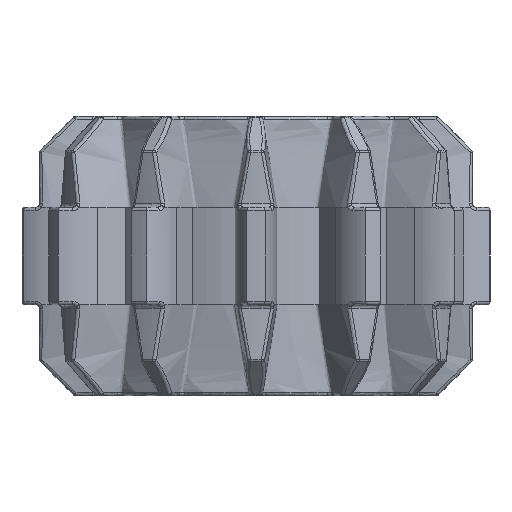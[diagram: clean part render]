
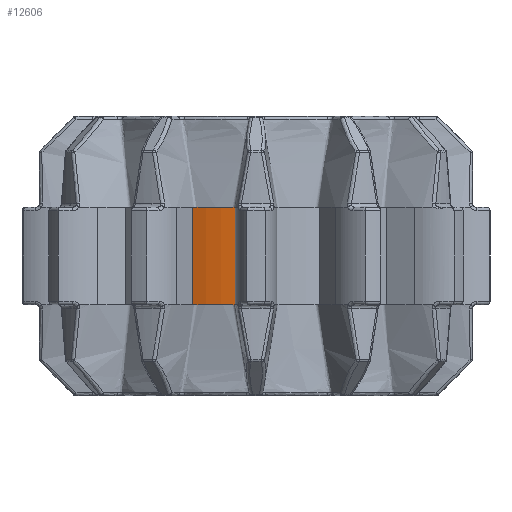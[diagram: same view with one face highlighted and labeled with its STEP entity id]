
A CAD part, left-side view. The second image highlights one B-rep face of the part: STEP entity #12606.
In plain terms, the highlighted cylindrical face has radius 4.7 mm (diameter 9.4 mm), a partial arc.
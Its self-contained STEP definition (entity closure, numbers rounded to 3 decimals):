
#1548=LINE('',#23630,#1773);
#1551=LINE('',#23638,#1776);
#1773=VECTOR('',#16042,1000.);
#1776=VECTOR('',#16051,1000.);
#1982=CYLINDRICAL_SURFACE('',#13841,4.7);
#2203=FACE_OUTER_BOUND('',#3015,.T.);
#3015=EDGE_LOOP('',(#8936,#8937,#8938,#8939));
#4071=CIRCLE('',#13842,4.7);
#4072=CIRCLE('',#13843,4.7);
#5292=VERTEX_POINT('',#23628);
#5293=VERTEX_POINT('',#23629);
#5294=VERTEX_POINT('',#23634);
#5295=VERTEX_POINT('',#23636);
#6735=EDGE_CURVE('',#5292,#5293,#1548,.T.);
#6738=EDGE_CURVE('',#5292,#5294,#4071,.T.);
#6739=EDGE_CURVE('',#5295,#5293,#4072,.T.);
#6740=EDGE_CURVE('',#5294,#5295,#1551,.T.);
#8936=ORIENTED_EDGE('',*,*,#6738,.F.);
#8937=ORIENTED_EDGE('',*,*,#6735,.T.);
#8938=ORIENTED_EDGE('',*,*,#6739,.F.);
#8939=ORIENTED_EDGE('',*,*,#6740,.F.);
#12606=ADVANCED_FACE('',(#2203),#1982,.T.);
#13841=AXIS2_PLACEMENT_3D('',#23633,#16045,#16046);
#13842=AXIS2_PLACEMENT_3D('',#23635,#16047,#16048);
#13843=AXIS2_PLACEMENT_3D('',#23637,#16049,#16050);
#16042=DIRECTION('',(0.,0.,1.));
#16045=DIRECTION('center_axis',(0.,0.,1.));
#16046=DIRECTION('ref_axis',(0.5,0.866,0.));
#16047=DIRECTION('center_axis',(0.,0.,-1.));
#16048=DIRECTION('ref_axis',(1.,0.,0.));
#16049=DIRECTION('center_axis',(0.,0.,1.));
#16050=DIRECTION('ref_axis',(-1.,0.,0.));
#16051=DIRECTION('',(0.,0.,1.));
#23628=CARTESIAN_POINT('',(-4.662,0.6,-5.4));
#23629=CARTESIAN_POINT('',(-4.662,0.6,-2.6));
#23630=CARTESIAN_POINT('',(-4.662,0.6,-9.));
#23633=CARTESIAN_POINT('Origin',(0.,0.,-9.));
#23634=CARTESIAN_POINT('',(-4.337,1.811,-5.4));
#23635=CARTESIAN_POINT('Origin',(0.,0.,-5.4));
#23636=CARTESIAN_POINT('',(-4.337,1.811,-2.6));
#23637=CARTESIAN_POINT('Origin',(0.,0.,-2.6));
#23638=CARTESIAN_POINT('',(-4.337,1.811,-9.));
